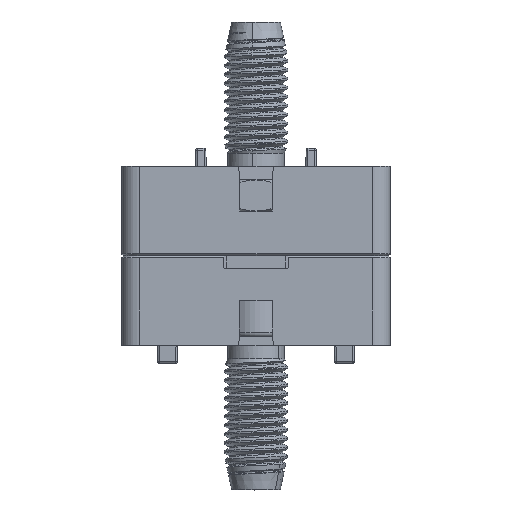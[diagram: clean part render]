
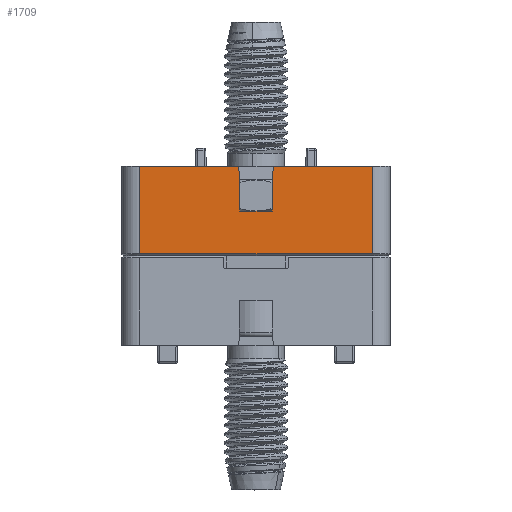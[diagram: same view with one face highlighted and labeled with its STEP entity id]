
A CAD part, top view. The second image highlights one B-rep face of the part: STEP entity #1709.
In plain terms, the highlighted planar face has unit normal (0, 0, 1).
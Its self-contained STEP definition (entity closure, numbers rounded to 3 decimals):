
#39 = CARTESIAN_POINT ( 'NONE',  ( -19.5, 0.3, 22.5 ) ) ;
#193 = EDGE_CURVE ( 'NONE', #9108, #2586, #22522, .T. ) ;
#211 = EDGE_CURVE ( 'NONE', #22986, #599, #21930, .T. ) ;
#426 = EDGE_CURVE ( 'NONE', #19568, #15616, #19582, .T. ) ;
#599 = VERTEX_POINT ( 'NONE', #17561 ) ;
#906 = CARTESIAN_POINT ( 'NONE',  ( -22.5, 15., 22.5 ) ) ;
#1709 = ADVANCED_FACE ( 'NONE', ( #15214 ), #15644, .F. ) ;
#2413 = LINE ( 'NONE', #8635, #21516 ) ;
#2586 = VERTEX_POINT ( 'NONE', #17857 ) ;
#2669 = CARTESIAN_POINT ( 'NONE',  ( -2.873, 15.396, 22.5 ) ) ;
#2796 = DIRECTION ( 'NONE',  ( -1., 0., 0. ) ) ;
#3309 = EDGE_CURVE ( 'NONE', #9108, #22986, #2413, .T. ) ;
#4248 = VECTOR ( 'NONE', #11971, 1000. ) ;
#4683 = VERTEX_POINT ( 'NONE', #4772 ) ;
#4772 = CARTESIAN_POINT ( 'NONE',  ( 19.5, 15., 22.5 ) ) ;
#6950 = LINE ( 'NONE', #21559, #16182 ) ;
#7011 = CARTESIAN_POINT ( 'NONE',  ( -22.5, 15., 22.5 ) ) ;
#7100 = VECTOR ( 'NONE', #10224, 1000. ) ;
#7675 = LINE ( 'NONE', #21323, #7100 ) ;
#7763 = VECTOR ( 'NONE', #22042, 1000. ) ;
#8635 = CARTESIAN_POINT ( 'NONE',  ( -19.5, 15., 22.5 ) ) ;
#8783 = ORIENTED_EDGE ( 'NONE', *, *, #426, .T. ) ;
#9091 = CARTESIAN_POINT ( 'NONE',  ( 19.5, 0.3, 22.5 ) ) ;
#9108 = VERTEX_POINT ( 'NONE', #13338 ) ;
#9195 = ORIENTED_EDGE ( 'NONE', *, *, #21041, .F. ) ;
#9363 = EDGE_LOOP ( 'NONE', ( #14445, #14329, #14194, #9195, #12887, #8783, #16779, #23391 ) ) ;
#9431 = AXIS2_PLACEMENT_3D ( 'NONE', #906, #13887, #2796 ) ;
#9750 = VECTOR ( 'NONE', #17031, 1000. ) ;
#10224 = DIRECTION ( 'NONE',  ( 0., 1., 0. ) ) ;
#11243 = EDGE_CURVE ( 'NONE', #12986, #19568, #6950, .T. ) ;
#11771 = CARTESIAN_POINT ( 'NONE',  ( -2.714, 7.5, 22.5 ) ) ;
#11971 = DIRECTION ( 'NONE',  ( -0.02, 1., 0. ) ) ;
#12179 = CARTESIAN_POINT ( 'NONE',  ( -22.5, 15., 22.5 ) ) ;
#12887 = ORIENTED_EDGE ( 'NONE', *, *, #11243, .T. ) ;
#12986 = VERTEX_POINT ( 'NONE', #21806 ) ;
#13338 = CARTESIAN_POINT ( 'NONE',  ( -19.5, 15., 22.5 ) ) ;
#13386 = CARTESIAN_POINT ( 'NONE',  ( -2.714, 7.5, 22.5 ) ) ;
#13510 = LINE ( 'NONE', #2669, #4248 ) ;
#13692 = VECTOR ( 'NONE', #23259, 1000. ) ;
#13887 = DIRECTION ( 'NONE',  ( 0., 0., -1. ) ) ;
#14194 = ORIENTED_EDGE ( 'NONE', *, *, #19917, .T. ) ;
#14329 = ORIENTED_EDGE ( 'NONE', *, *, #211, .T. ) ;
#14445 = ORIENTED_EDGE ( 'NONE', *, *, #3309, .T. ) ;
#15214 = FACE_OUTER_BOUND ( 'NONE', #9363, .T. ) ;
#15616 = VERTEX_POINT ( 'NONE', #11771 ) ;
#15644 = PLANE ( 'NONE',  #9431 ) ;
#16182 = VECTOR ( 'NONE', #23413, 1000. ) ;
#16779 = ORIENTED_EDGE ( 'NONE', *, *, #18616, .T. ) ;
#17031 = DIRECTION ( 'NONE',  ( -1., 0., 0. ) ) ;
#17561 = CARTESIAN_POINT ( 'NONE',  ( 19.5, 0.3, 22.5 ) ) ;
#17572 = VECTOR ( 'NONE', #21891, 1000. ) ;
#17857 = CARTESIAN_POINT ( 'NONE',  ( -2.865, 15., 22.5 ) ) ;
#18616 = EDGE_CURVE ( 'NONE', #15616, #2586, #13510, .T. ) ;
#18622 = LINE ( 'NONE', #12179, #13692 ) ;
#19568 = VERTEX_POINT ( 'NONE', #20201 ) ;
#19582 = LINE ( 'NONE', #13386, #9750 ) ;
#19702 = DIRECTION ( 'NONE',  ( 0., -1., 0. ) ) ;
#19917 = EDGE_CURVE ( 'NONE', #599, #4683, #7675, .T. ) ;
#20201 = CARTESIAN_POINT ( 'NONE',  ( 2.714, 7.5, 22.5 ) ) ;
#21041 = EDGE_CURVE ( 'NONE', #12986, #4683, #18622, .T. ) ;
#21323 = CARTESIAN_POINT ( 'NONE',  ( 19.5, 15., 22.5 ) ) ;
#21516 = VECTOR ( 'NONE', #19702, 1000. ) ;
#21559 = CARTESIAN_POINT ( 'NONE',  ( 2.854, 14.489, 22.5 ) ) ;
#21806 = CARTESIAN_POINT ( 'NONE',  ( 2.865, 15., 22.5 ) ) ;
#21891 = DIRECTION ( 'NONE',  ( 1., 0., 0. ) ) ;
#21930 = LINE ( 'NONE', #9091, #7763 ) ;
#22042 = DIRECTION ( 'NONE',  ( 1., 0., 0. ) ) ;
#22522 = LINE ( 'NONE', #7011, #17572 ) ;
#22986 = VERTEX_POINT ( 'NONE', #39 ) ;
#23259 = DIRECTION ( 'NONE',  ( 1., 0., 0. ) ) ;
#23391 = ORIENTED_EDGE ( 'NONE', *, *, #193, .F. ) ;
#23413 = DIRECTION ( 'NONE',  ( -0.02, -1., 0. ) ) ;
